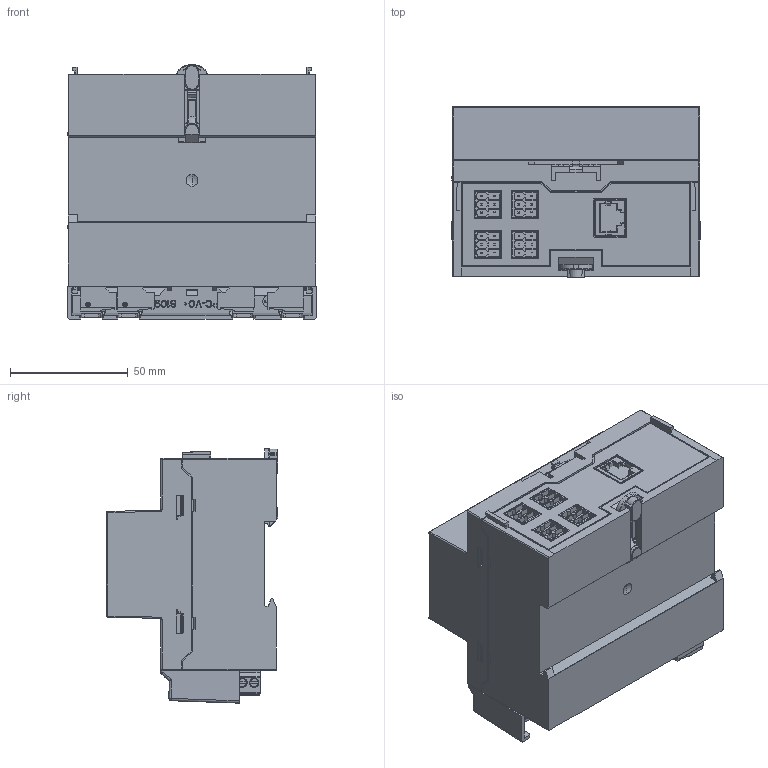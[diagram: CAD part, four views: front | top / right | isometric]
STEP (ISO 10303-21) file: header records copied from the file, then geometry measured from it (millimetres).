
FILE_DESCRIPTION((''),'2;1');
FILE_NAME('0000006149_ASM','2024-03-25T13:01:24',('lesquembri'),(''),'CREO PARAMETRIC BY PTC INC, 2018260','CREO PARAMETRIC BY PTC INC, 2018260','');
FILE_SCHEMA(('AUTOMOTIVE_DESIGN { 1 0 10303 214 1 1 1 1 }'));
Products named in the file (1): 0000006149_ASM
Bounding box: 105.49 x 72.83 x 107.88 mm (x, y, z)
Volume: 541208.7 mm3; surface area: 111849.2 mm2
Topology: 1 solids, 25 shells, 5711 faces, 16455 edges, 10826 vertices
Faces by surface type: plane 4342, cylinder 895, cone 136, extrusion 132, bspline 114, torus 68, sphere 24
Entity records: 244245 total; most frequent: CARTESIAN_POINT 50156, ORIENTED_EDGE 32862, DIRECTION 27556, EDGE_CURVE 16431, VECTOR 13096, LINE 12964, VERTEX_POINT 10826, PRESENTATION_STYLE_ASSIGNMENT 9151
